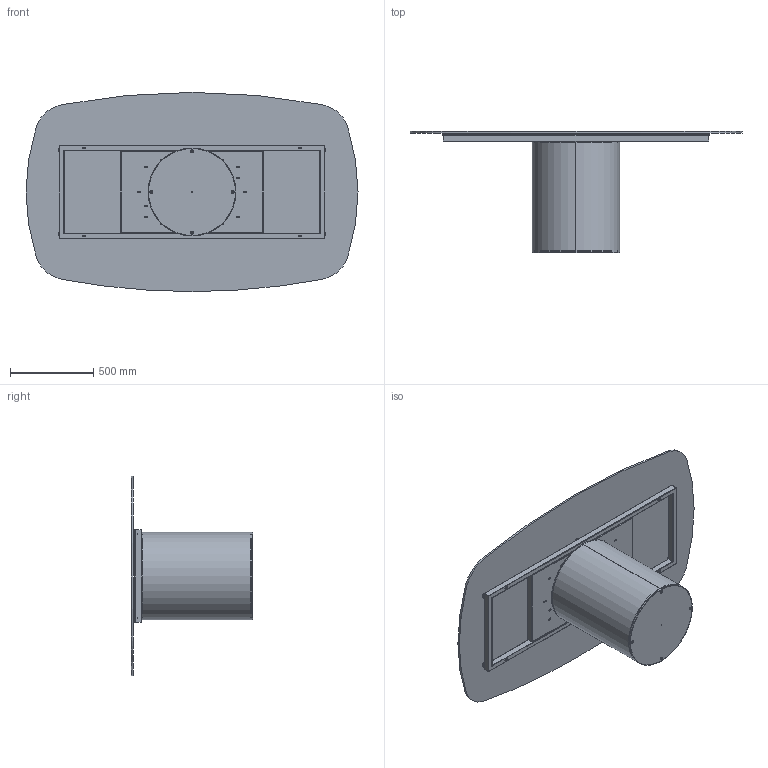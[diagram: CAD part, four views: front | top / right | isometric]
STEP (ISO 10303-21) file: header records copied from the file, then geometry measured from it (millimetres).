
FILE_DESCRIPTION (( 'STEP AP203' ), '1' );
FILE_NAME ('CI41G.STEP', '2024-08-08T07:24:48', ( '' ), ( '' ), 'SwSTEP 2.0', 'SolidWorks 2022', '' );
FILE_SCHEMA (( 'CONFIG_CONTROL_DESIGN' ));
Length unit declared in the file: millimetre
Products named in the file (11): C4XCRXX-00-Piani Sagomati in Cristallo_2000x1200; 434070-00-PIEDINO TPV GOMMA NERO D. 30x8max18_filo estetico; C2B000000-03-CILINDRO BASE D.530mm_Normale; TTAV01_02-05-VASSOIO IRRIGIDIMENTO TELAIO UNIVERSALE; CI41G; M8xXXmm_hex_M8X20mm; COLLO TELAIO UNIVERSALE TTAV01 CON FERRAMENTA_MTG TOP CRISTALLO VERNICIATO-CERAMICA; TTAV01-05-TELAIO UNIVERSALE X TAVOLI 180 240cm; C2B000000_02-01-ZAVORRA IN FERRO D.530mm; C2B000000_01-00-struttura cilindro D.530mm; TTAV01_01-05-TELAIO UNIVERSALE X TAVOLI 180 240cm
Assembly tree (18 placements, depth 4):
  CI41G
    C2B000000-03-CILINDRO BASE D.530mm_Normale
      C2B000000_01-00-struttura cilindro D.530mm
      C2B000000_02-01-ZAVORRA IN FERRO D.530mm
      M8xXXmm_hex_M8X20mm  x4
    COLLO TELAIO UNIVERSALE TTAV01 CON FERRAMENTA_MTG TOP CRISTALLO VERNICIATO-CERAMICA
      TTAV01-05-TELAIO UNIVERSALE X TAVOLI 180 240cm
        TTAV01_02-05-VASSOIO IRRIGIDIMENTO TELAIO UNIVERSALE
        TTAV01_01-05-TELAIO UNIVERSALE X TAVOLI 180 240cm
      434070-00-PIEDINO TPV GOMMA NERO D. 30x8max18_filo estetico  x6
    C4XCRXX-00-Piani Sagomati in Cristallo_2000x1200
Bounding box: 2000 x 732 x 1200 mm (x, y, z)
Volume: 34704176.9 mm3; surface area: 9515288.5 mm2
Topology: 24 solids, 24 shells, 569 faces, 1327 edges, 792 vertices
Faces by surface type: plane 252, cylinder 231, cone 32, torus 32, sphere 22
Entity records: 13664 total; most frequent: DIRECTION 2267, CARTESIAN_POINT 2083, ORIENTED_EDGE 2010, EDGE_CURVE 1005, AXIS2_PLACEMENT_3D 839, VERTEX_POINT 623, LINE 589, VECTOR 589
